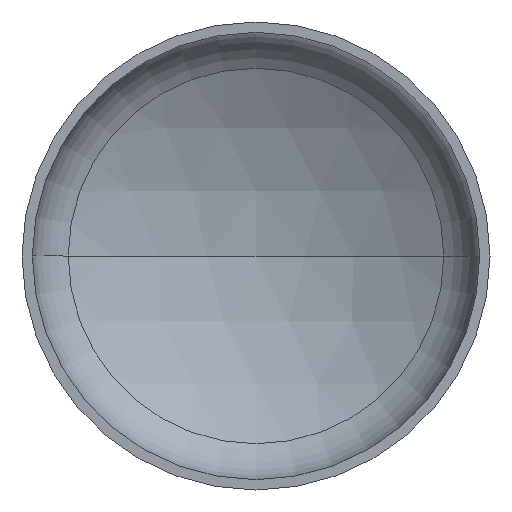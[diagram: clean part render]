
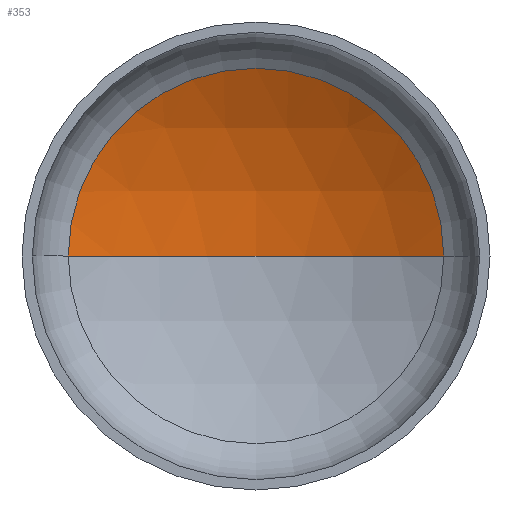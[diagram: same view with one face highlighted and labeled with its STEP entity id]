
A CAD part, front view. The second image highlights one B-rep face of the part: STEP entity #353.
In plain terms, the highlighted spherical face has radius 3040 mm.
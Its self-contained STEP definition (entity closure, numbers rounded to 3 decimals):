
#6 = AXIS2_PLACEMENT_3D ( 'NONE', #410, #342, #233 ) ;
#7 = AXIS2_PLACEMENT_3D ( 'NONE', #119, #358, #214 ) ;
#22 = VERTEX_POINT ( 'NONE', #255 ) ;
#27 = DIRECTION ( 'NONE',  ( -1., 0., 0. ) ) ;
#30 = EDGE_LOOP ( 'NONE', ( #130, #136, #92 ) ) ;
#38 = DIRECTION ( 'NONE',  ( 0., 0., -1. ) ) ;
#49 = AXIS2_PLACEMENT_3D ( 'NONE', #394, #38, #27 ) ;
#52 = AXIS2_PLACEMENT_3D ( 'NONE', #123, #305, #161 ) ;
#92 = ORIENTED_EDGE ( 'NONE', *, *, #99, .T. ) ;
#97 = VERTEX_POINT ( 'NONE', #323 ) ;
#99 = EDGE_CURVE ( 'NONE', #97, #137, #172, .T. ) ;
#102 = EDGE_CURVE ( 'NONE', #22, #97, #368, .T. ) ;
#107 = FACE_OUTER_BOUND ( 'NONE', #30, .T. ) ;
#119 = CARTESIAN_POINT ( 'NONE',  ( 0., -2024.068, 0. ) ) ;
#123 = CARTESIAN_POINT ( 'NONE',  ( 0., 606.142, 0. ) ) ;
#130 = ORIENTED_EDGE ( 'NONE', *, *, #364, .F. ) ;
#136 = ORIENTED_EDGE ( 'NONE', *, *, #102, .T. ) ;
#137 = VERTEX_POINT ( 'NONE', #194 ) ;
#161 = DIRECTION ( 'NONE',  ( 1., 0., 0. ) ) ;
#172 = CIRCLE ( 'NONE', #52, 1524.334 ) ;
#194 = CARTESIAN_POINT ( 'NONE',  ( -1524.334, 606.142, 0. ) ) ;
#205 = CIRCLE ( 'NONE', #6, 3040. ) ;
#214 = DIRECTION ( 'NONE',  ( -1., 0., 0. ) ) ;
#233 = DIRECTION ( 'NONE',  ( 1., 0., 0. ) ) ;
#255 = CARTESIAN_POINT ( 'NONE',  ( 0., 1015.932, 0. ) ) ;
#305 = DIRECTION ( 'NONE',  ( 0., -1., 0. ) ) ;
#323 = CARTESIAN_POINT ( 'NONE',  ( 1524.334, 606.142, 0. ) ) ;
#332 = SPHERICAL_SURFACE ( 'NONE', #7, 3040. ) ;
#342 = DIRECTION ( 'NONE',  ( 0., 0., 1. ) ) ;
#353 = ADVANCED_FACE ( 'NONE', ( #107 ), #332, .F. ) ;
#358 = DIRECTION ( 'NONE',  ( 0., 0., -1. ) ) ;
#364 = EDGE_CURVE ( 'NONE', #22, #137, #205, .T. ) ;
#368 = CIRCLE ( 'NONE', #49, 3040. ) ;
#394 = CARTESIAN_POINT ( 'NONE',  ( 0., -2024.068, 0. ) ) ;
#410 = CARTESIAN_POINT ( 'NONE',  ( 0., -2024.068, 0. ) ) ;
